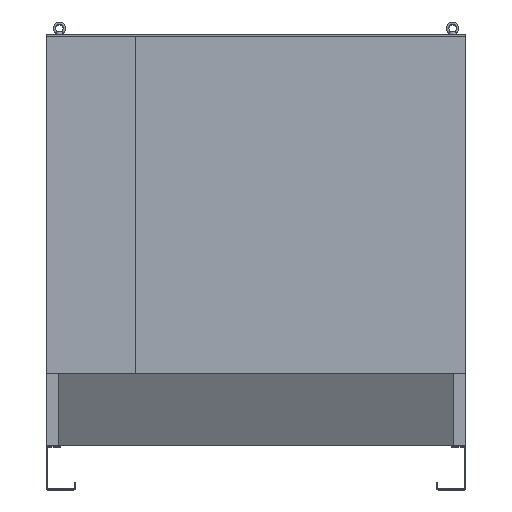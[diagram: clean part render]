
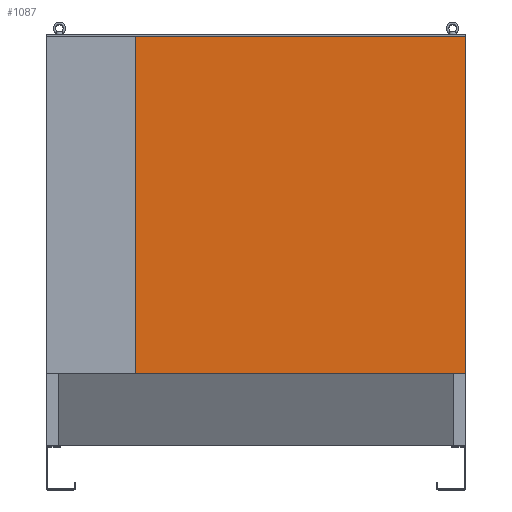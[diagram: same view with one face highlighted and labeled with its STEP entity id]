
A CAD part, top view. The second image highlights one B-rep face of the part: STEP entity #1087.
In plain terms, the highlighted planar face has unit normal (0, 0, 1).
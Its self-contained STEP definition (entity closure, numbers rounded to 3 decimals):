
#1087=ADVANCED_FACE('',(#1357),#1210,.T.);
#1210=PLANE('',#4828);
#1357=FACE_OUTER_BOUND('',#1563,.T.);
#1563=EDGE_LOOP('',(#2623,#2624,#2625,#2626));
#2623=ORIENTED_EDGE('',*,*,#3887,.F.);
#2624=ORIENTED_EDGE('',*,*,#3888,.F.);
#2625=ORIENTED_EDGE('',*,*,#3889,.F.);
#2626=ORIENTED_EDGE('',*,*,#3890,.F.);
#3285=VERTEX_POINT('',#11382);
#3286=VERTEX_POINT('',#11383);
#3287=VERTEX_POINT('',#11385);
#3288=VERTEX_POINT('',#11387);
#3887=EDGE_CURVE('',#3285,#3286,#4259,.T.);
#3888=EDGE_CURVE('',#3287,#3285,#4260,.T.);
#3889=EDGE_CURVE('',#3288,#3287,#4261,.T.);
#3890=EDGE_CURVE('',#3286,#3288,#4262,.T.);
#4259=LINE('',#11381,#4503);
#4260=LINE('',#11384,#4504);
#4261=LINE('',#11386,#4505);
#4262=LINE('',#11388,#4506);
#4503=VECTOR('',#5480,1.);
#4504=VECTOR('',#5481,1.);
#4505=VECTOR('',#5482,1.);
#4506=VECTOR('',#5483,1.);
#4828=AXIS2_PLACEMENT_3D('',#11389,#5484,#5485);
#5480=DIRECTION('',(-1.,0.,0.));
#5481=DIRECTION('',(0.,-1.,0.));
#5482=DIRECTION('',(1.,0.,0.));
#5483=DIRECTION('',(0.,1.,0.));
#5484=DIRECTION('',(0.,0.,1.));
#5485=DIRECTION('',(1.,0.,0.));
#11381=CARTESIAN_POINT('',(91.,-706.5,505.));
#11382=CARTESIAN_POINT('',(425.5,-706.5,505.));
#11383=CARTESIAN_POINT('',(-243.5,-706.5,505.));
#11384=CARTESIAN_POINT('',(425.5,-365.,505.));
#11385=CARTESIAN_POINT('',(425.5,-23.5,505.));
#11386=CARTESIAN_POINT('',(91.,-23.5,505.));
#11387=CARTESIAN_POINT('',(-243.5,-23.5,505.));
#11388=CARTESIAN_POINT('',(-243.5,-365.,505.));
#11389=CARTESIAN_POINT('',(91.,-365.,505.));
